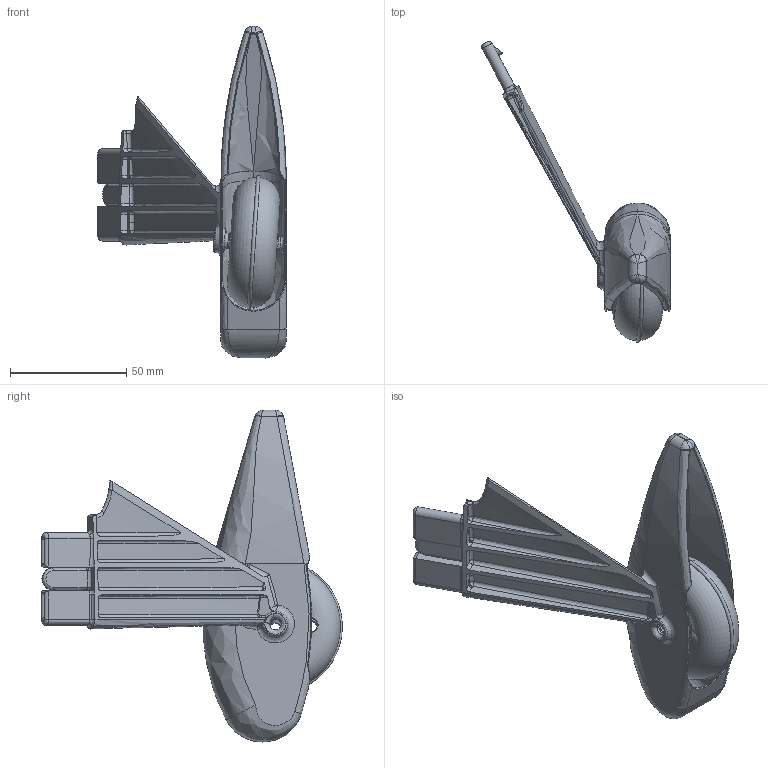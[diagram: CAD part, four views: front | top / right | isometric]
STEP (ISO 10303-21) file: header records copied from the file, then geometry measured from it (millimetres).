
FILE_DESCRIPTION (( 'STEP AP203' ), '1' );
FILE_NAME ('Mirror06-12-037-00 (LG).STEP', '2019-02-25T09:11:24', ( '' ), ( '' ), 'SwSTEP 2.0', 'SolidWorks 2014', '' );
FILE_SCHEMA (( 'CONFIG_CONTROL_DESIGN' ));
Length unit declared in the file: millimetre
Products named in the file (1): Mirror06-12-037-00 (LG)
Bounding box: 80.87 x 129.18 x 142.5 mm (x, y, z)
Volume: 26824.6 mm3; surface area: 52010.3 mm2
Topology: 2 solids, 3 shells, 661 faces, 1641 edges, 949 vertices
Faces by surface type: bspline 304, cylinder 159, plane 95, torus 93, sphere 10
Entity records: 45357 total; most frequent: CARTESIAN_POINT 32157, ORIENTED_EDGE 3212, DIRECTION 2144, EDGE_CURVE 1606, VERTEX_POINT 935, AXIS2_PLACEMENT_3D 914, B_SPLINE_CURVE_WITH_KNOTS 705, EDGE_LOOP 673
